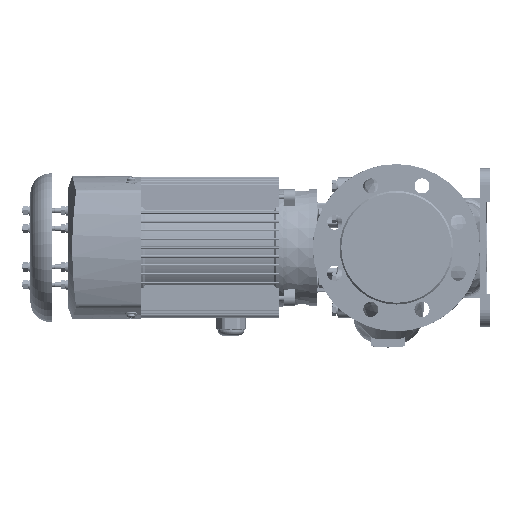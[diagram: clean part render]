
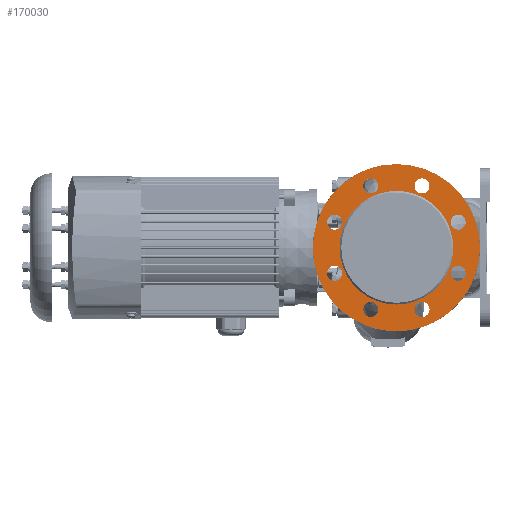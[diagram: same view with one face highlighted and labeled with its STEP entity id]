
A CAD part, left-side view. The second image highlights one B-rep face of the part: STEP entity #170030.
In plain terms, the highlighted planar face has unit normal (-1, 0, 0).
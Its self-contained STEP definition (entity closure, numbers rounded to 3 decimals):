
#427 = FACE_OUTER_BOUND ( 'NONE', #80821, .T. ) ;
#1423 = EDGE_LOOP ( 'NONE', ( #53255 ) ) ;
#1491 = EDGE_CURVE ( 'NONE', #310092, #310092, #134664, .T. ) ;
#2348 = AXIS2_PLACEMENT_3D ( 'NONE', #63755, #252824, #90917 ) ;
#5040 = CIRCLE ( 'NONE', #317715, 9. ) ;
#8835 = FACE_BOUND ( 'NONE', #146781, .T. ) ;
#13284 = EDGE_LOOP ( 'NONE', ( #203855 ) ) ;
#29568 = ORIENTED_EDGE ( 'NONE', *, *, #330078, .T. ) ;
#34032 = AXIS2_PLACEMENT_3D ( 'NONE', #294972, #133247, #322177 ) ;
#35287 = DIRECTION ( 'NONE',  ( -1., 0., 0. ) ) ;
#43812 = VERTEX_POINT ( 'NONE', #213800 ) ;
#46450 = CARTESIAN_POINT ( 'NONE',  ( -133.422, 114.27, 400.998 ) ) ;
#48846 = EDGE_CURVE ( 'NONE', #334842, #334842, #118929, .T. ) ;
#51538 = DIRECTION ( 'NONE',  ( -1., 0., 0. ) ) ;
#53255 = ORIENTED_EDGE ( 'NONE', *, *, #285936, .F. ) ;
#54495 = VERTEX_POINT ( 'NONE', #240189 ) ;
#61004 = CIRCLE ( 'NONE', #149489, 9. ) ;
#62831 = DIRECTION ( 'NONE',  ( -1., 0., 0. ) ) ;
#63755 = CARTESIAN_POINT ( 'NONE',  ( -133.422, 262.091, 339.769 ) ) ;
#63841 = FACE_BOUND ( 'NONE', #1423, .T. ) ;
#66505 = CARTESIAN_POINT ( 'NONE',  ( -133.422, 218.795, 296.473 ) ) ;
#72327 = CIRCLE ( 'NONE', #338840, 9. ) ;
#72500 = EDGE_LOOP ( 'NONE', ( #85098 ) ) ;
#73560 = DIRECTION ( 'NONE',  ( 0., 0., 1. ) ) ;
#74159 = CARTESIAN_POINT ( 'NONE',  ( -133.422, 157.566, 444.294 ) ) ;
#80200 = VERTEX_POINT ( 'NONE', #312121 ) ;
#80262 = CARTESIAN_POINT ( 'NONE',  ( -133.422, 218.795, 305.473 ) ) ;
#80821 = EDGE_LOOP ( 'NONE', ( #29568 ) ) ;
#85098 = ORIENTED_EDGE ( 'NONE', *, *, #194075, .F. ) ;
#90917 = DIRECTION ( 'NONE',  ( 0., 0., 1. ) ) ;
#93468 = CARTESIAN_POINT ( 'NONE',  ( -133.422, 188.18, 370.383 ) ) ;
#93640 = DIRECTION ( 'NONE',  ( 0., 0., 1. ) ) ;
#93717 = DIRECTION ( 'NONE',  ( 1., 0., 0. ) ) ;
#97452 = ORIENTED_EDGE ( 'NONE', *, *, #48846, .F. ) ;
#97455 = AXIS2_PLACEMENT_3D ( 'NONE', #213335, #51538, #240461 ) ;
#101294 = DIRECTION ( 'NONE',  ( 0., 0., 1. ) ) ;
#108080 = CIRCLE ( 'NONE', #97455, 68. ) ;
#117476 = ORIENTED_EDGE ( 'NONE', *, *, #183131, .F. ) ;
#118929 = CIRCLE ( 'NONE', #2348, 9. ) ;
#119034 = CARTESIAN_POINT ( 'NONE',  ( -133.422, 188.18, 470.383 ) ) ;
#120664 = DIRECTION ( 'NONE',  ( 0., 0., 1. ) ) ;
#133247 = DIRECTION ( 'NONE',  ( -1., 0., 0. ) ) ;
#134664 = CIRCLE ( 'NONE', #272039, 9. ) ;
#135653 = FACE_BOUND ( 'NONE', #250286, .T. ) ;
#144057 = FACE_BOUND ( 'NONE', #347583, .T. ) ;
#145389 = EDGE_CURVE ( 'NONE', #329438, #329438, #275049, .T. ) ;
#146781 = EDGE_LOOP ( 'NONE', ( #298455 ) ) ;
#147656 = CARTESIAN_POINT ( 'NONE',  ( -133.422, 218.795, 453.294 ) ) ;
#149489 = AXIS2_PLACEMENT_3D ( 'NONE', #74159, #263159, #101294 ) ;
#152510 = FACE_BOUND ( 'NONE', #72500, .T. ) ;
#152738 = EDGE_CURVE ( 'NONE', #80200, #80200, #108080, .T. ) ;
#152865 = EDGE_LOOP ( 'NONE', ( #117476 ) ) ;
#154917 = CARTESIAN_POINT ( 'NONE',  ( -133.422, 157.566, 296.473 ) ) ;
#170030 = ADVANCED_FACE ( 'NONE', ( #427, #144057, #8835, #152510, #279290, #207598, #135653, #63841, #342548, #270918 ), #334519, .F. ) ;
#170686 = EDGE_LOOP ( 'NONE', ( #336579 ) ) ;
#175256 = CARTESIAN_POINT ( 'NONE',  ( -133.422, 262.091, 409.998 ) ) ;
#176694 = VERTEX_POINT ( 'NONE', #244862 ) ;
#180434 = VERTEX_POINT ( 'NONE', #147656 ) ;
#182171 = DIRECTION ( 'NONE',  ( 0., 0., 1. ) ) ;
#183131 = EDGE_CURVE ( 'NONE', #54495, #54495, #270769, .T. ) ;
#187688 = AXIS2_PLACEMENT_3D ( 'NONE', #197253, #35287, #224343 ) ;
#194075 = EDGE_CURVE ( 'NONE', #176694, #176694, #61004, .T. ) ;
#197253 = CARTESIAN_POINT ( 'NONE',  ( -133.422, 262.091, 400.998 ) ) ;
#203855 = ORIENTED_EDGE ( 'NONE', *, *, #145389, .F. ) ;
#207598 = FACE_BOUND ( 'NONE', #13284, .T. ) ;
#213335 = CARTESIAN_POINT ( 'NONE',  ( -133.422, 188.18, 370.383 ) ) ;
#213800 = CARTESIAN_POINT ( 'NONE',  ( -133.422, 114.27, 409.998 ) ) ;
#215918 = ORIENTED_EDGE ( 'NONE', *, *, #152738, .F. ) ;
#224343 = DIRECTION ( 'NONE',  ( 0., 0., 1. ) ) ;
#224670 = CARTESIAN_POINT ( 'NONE',  ( -133.422, 218.795, 444.294 ) ) ;
#230121 = CARTESIAN_POINT ( 'NONE',  ( -133.422, 262.091, 348.769 ) ) ;
#235403 = DIRECTION ( 'NONE',  ( -1., 0., 0. ) ) ;
#235615 = AXIS2_PLACEMENT_3D ( 'NONE', #66505, #255604, #93640 ) ;
#236471 = EDGE_CURVE ( 'NONE', #180434, #180434, #5040, .T. ) ;
#240189 = CARTESIAN_POINT ( 'NONE',  ( -133.422, 114.27, 348.769 ) ) ;
#240461 = DIRECTION ( 'NONE',  ( 0., 0., 1. ) ) ;
#244862 = CARTESIAN_POINT ( 'NONE',  ( -133.422, 157.566, 453.294 ) ) ;
#250286 = EDGE_LOOP ( 'NONE', ( #97452 ) ) ;
#251879 = DIRECTION ( 'NONE',  ( 0., 0., 1. ) ) ;
#252824 = DIRECTION ( 'NONE',  ( -1., 0., 0. ) ) ;
#255604 = DIRECTION ( 'NONE',  ( -1., 0., 0. ) ) ;
#255665 = CARTESIAN_POINT ( 'NONE',  ( -133.422, 256.18, 370.383 ) ) ;
#263159 = DIRECTION ( 'NONE',  ( -1., 0., 0. ) ) ;
#270769 = CIRCLE ( 'NONE', #34032, 9. ) ;
#270918 = FACE_BOUND ( 'NONE', #152865, .T. ) ;
#272039 = AXIS2_PLACEMENT_3D ( 'NONE', #154917, #343842, #182171 ) ;
#275049 = CIRCLE ( 'NONE', #187688, 9. ) ;
#278328 = EDGE_CURVE ( 'NONE', #43812, #43812, #72327, .T. ) ;
#279290 = FACE_BOUND ( 'NONE', #306709, .T. ) ;
#282411 = DIRECTION ( 'NONE',  ( -1., 0., 0. ) ) ;
#282634 = DIRECTION ( 'NONE',  ( 0., 0., -1. ) ) ;
#285936 = EDGE_CURVE ( 'NONE', #297075, #297075, #321348, .T. ) ;
#288700 = VERTEX_POINT ( 'NONE', #119034 ) ;
#289747 = CIRCLE ( 'NONE', #311389, 100. ) ;
#294972 = CARTESIAN_POINT ( 'NONE',  ( -133.422, 114.27, 339.769 ) ) ;
#297075 = VERTEX_POINT ( 'NONE', #80262 ) ;
#297436 = CARTESIAN_POINT ( 'NONE',  ( -133.422, 157.566, 305.473 ) ) ;
#298455 = ORIENTED_EDGE ( 'NONE', *, *, #236471, .F. ) ;
#306709 = EDGE_LOOP ( 'NONE', ( #316065 ) ) ;
#310092 = VERTEX_POINT ( 'NONE', #297436 ) ;
#311389 = AXIS2_PLACEMENT_3D ( 'NONE', #93468, #282411, #120664 ) ;
#312121 = CARTESIAN_POINT ( 'NONE',  ( -133.422, 188.18, 438.383 ) ) ;
#316065 = ORIENTED_EDGE ( 'NONE', *, *, #278328, .F. ) ;
#317715 = AXIS2_PLACEMENT_3D ( 'NONE', #224670, #62831, #251879 ) ;
#320948 = AXIS2_PLACEMENT_3D ( 'NONE', #255665, #93717, #282634 ) ;
#321348 = CIRCLE ( 'NONE', #235615, 9. ) ;
#322177 = DIRECTION ( 'NONE',  ( 0., 0., 1. ) ) ;
#329438 = VERTEX_POINT ( 'NONE', #175256 ) ;
#330078 = EDGE_CURVE ( 'NONE', #288700, #288700, #289747, .T. ) ;
#334519 = PLANE ( 'NONE',  #320948 ) ;
#334842 = VERTEX_POINT ( 'NONE', #230121 ) ;
#336579 = ORIENTED_EDGE ( 'NONE', *, *, #1491, .F. ) ;
#338840 = AXIS2_PLACEMENT_3D ( 'NONE', #46450, #235403, #73560 ) ;
#342548 = FACE_BOUND ( 'NONE', #170686, .T. ) ;
#343842 = DIRECTION ( 'NONE',  ( -1., 0., 0. ) ) ;
#347583 = EDGE_LOOP ( 'NONE', ( #215918 ) ) ;
